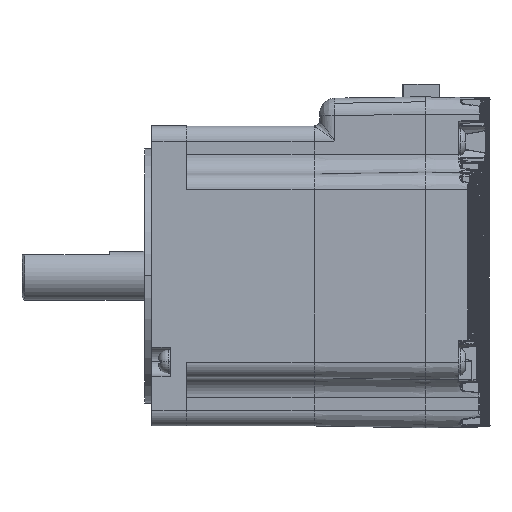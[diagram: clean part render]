
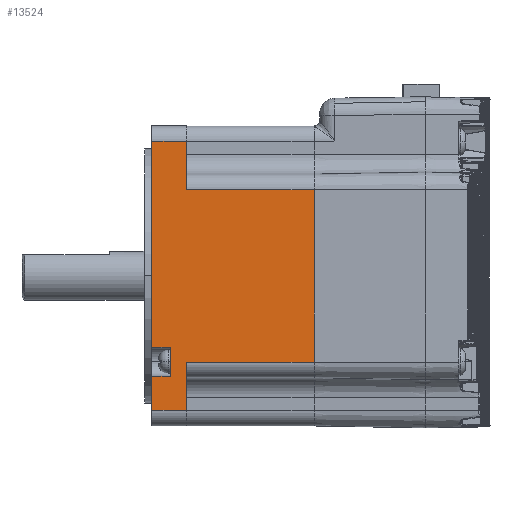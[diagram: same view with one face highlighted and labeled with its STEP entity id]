
A CAD part, left-side view. The second image highlights one B-rep face of the part: STEP entity #13524.
In plain terms, the highlighted planar face has unit normal (-1, 0, 0).
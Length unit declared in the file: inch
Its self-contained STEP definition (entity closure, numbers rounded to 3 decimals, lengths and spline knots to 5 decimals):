
#8327=EDGE_CURVE('',#18670,#19150,#26252,.T.);
#8506=VERTEX_POINT('',#26455);
#9121=EDGE_CURVE('',#26069,#21826,#27125,.T.);
#10547=EDGE_CURVE('',#17102,#18670,#28684,.T.);
#10725=VERTEX_POINT('',#28876);
#11591=VERTEX_POINT('',#29824);
#12037=EDGE_CURVE('',#8506,#11591,#30315,.T.);
#12851=VERTEX_POINT('',#31204);
#13366=EDGE_CURVE('',#12851,#17102,#31766,.T.);
#13524=ADVANCED_FACE('New 3D Block[1]',(#31939),#31940,.T.);
#14609=EDGE_CURVE('',#10725,#14861,#33121,.T.);
#14861=VERTEX_POINT('',#33395);
#15766=EDGE_CURVE('',#12851,#10725,#34394,.T.);
#17102=VERTEX_POINT('',#35858);
#18670=VERTEX_POINT('',#37580);
#19150=VERTEX_POINT('',#38102);
#19603=EDGE_CURVE('',#14861,#22801,#38603,.T.);
#21826=VERTEX_POINT('',#41056);
#22801=VERTEX_POINT('',#42129);
#23315=EDGE_CURVE('',#11591,#21826,#42705,.T.);
#23699=EDGE_CURVE('',#19150,#23827,#43126,.T.);
#23827=VERTEX_POINT('',#43274);
#24104=EDGE_CURVE('',#23827,#26069,#43572,.T.);
#24195=EDGE_CURVE('',#22801,#8506,#43674,.T.);
#26069=VERTEX_POINT('',#45728);
#26252=LINE('',#46184,#46185);
#26455=CARTESIAN_POINT('',(-7.04536,1.435,4.08748));
#27125=LINE('',#49397,#49398);
#28684=LINE('',#54757,#54758);
#28876=CARTESIAN_POINT('',(-7.04536,1.435,6.02948));
#29824=CARTESIAN_POINT('',(-7.04536,1.435,3.54348));
#30315=LINE('',#60610,#60611);
#31204=CARTESIAN_POINT('',(-7.04536,1.435,6.57348));
#31766=LINE('',#64767,#64768);
#31939=FACE_OUTER_BOUND('',#65430,.T.);
#31940=PLANE('',#65431);
#33121=LINE('',#70082,#70083);
#33395=CARTESIAN_POINT('',(-7.04536,0.,6.02948));
#34394=LINE('',#75549,#75550);
#35858=CARTESIAN_POINT('',(-7.04536,1.829,6.57348));
#37580=CARTESIAN_POINT('',(-7.04536,1.829,4.25749));
#38102=CARTESIAN_POINT('',(-7.04536,1.619,4.25749));
#38603=LINE('',#90309,#90310);
#41056=CARTESIAN_POINT('',(-7.04536,1.829,3.54348));
#42129=CARTESIAN_POINT('',(-7.04536,0.,4.08748));
#42705=LINE('',#104693,#104694);
#43126=LINE('',#106646,#106647);
#43274=CARTESIAN_POINT('',(-7.04536,1.619,3.92749));
#43572=LINE('',#107915,#107916);
#43674=LINE('',#108285,#108286);
#45728=CARTESIAN_POINT('',(-7.04536,1.829,3.92749));
#46184=CARTESIAN_POINT('',(-7.04536,1.829,4.25749));
#46185=VECTOR('',#115589,39.37008);
#49397=CARTESIAN_POINT('',(-7.04536,1.829,3.54348));
#49398=VECTOR('',#116359,39.37008);
#54757=CARTESIAN_POINT('',(-7.04536,1.829,3.54348));
#54758=VECTOR('',#117749,39.37008);
#60610=CARTESIAN_POINT('',(-7.04536,1.435,3.54348));
#60611=VECTOR('',#119376,39.37008);
#64767=CARTESIAN_POINT('',(-7.04536,1.429,6.57348));
#64768=VECTOR('',#120623,39.37008);
#65430=EDGE_LOOP('',(#120771,#120772,#120773,#120774,#120775,#120776,#120777,#120778,#120779,#120780,#120781,#120782));
#65431=AXIS2_PLACEMENT_3D('',#120783,#120784,#120785);
#70082=CARTESIAN_POINT('',(-7.04536,1.73,6.02948));
#70083=VECTOR('',#121830,39.37008);
#75549=CARTESIAN_POINT('',(-7.04536,1.435,3.54348));
#75550=VECTOR('',#123109,39.37008);
#90309=CARTESIAN_POINT('',(-7.04536,0.,4.08748));
#90310=VECTOR('',#126951,39.37008);
#104693=CARTESIAN_POINT('',(-7.04536,1.429,3.54348));
#104694=VECTOR('',#130895,39.37008);
#106646=CARTESIAN_POINT('',(-7.04536,1.619,4.08999));
#106647=VECTOR('',#131267,39.37008);
#107915=CARTESIAN_POINT('',(-7.04536,1.829,3.92749));
#107916=VECTOR('',#131692,39.37008);
#108285=CARTESIAN_POINT('',(-7.04536,0.,4.08748));
#108286=VECTOR('',#131791,39.37008);
#115589=DIRECTION('',(0.0,-1.0,0.0));
#116359=DIRECTION('',(0.0,0.0,-1.0));
#117749=DIRECTION('',(0.0,0.0,-1.0));
#119376=DIRECTION('',(0.0,0.0,-1.0));
#120623=DIRECTION('',(0.0,1.0,0.0));
#120771=ORIENTED_EDGE('',*,*,#24195,.F.);
#120772=ORIENTED_EDGE('',*,*,#19603,.F.);
#120773=ORIENTED_EDGE('',*,*,#14609,.F.);
#120774=ORIENTED_EDGE('',*,*,#15766,.F.);
#120775=ORIENTED_EDGE('',*,*,#13366,.T.);
#120776=ORIENTED_EDGE('',*,*,#10547,.T.);
#120777=ORIENTED_EDGE('',*,*,#8327,.T.);
#120778=ORIENTED_EDGE('',*,*,#23699,.T.);
#120779=ORIENTED_EDGE('',*,*,#24104,.T.);
#120780=ORIENTED_EDGE('',*,*,#9121,.T.);
#120781=ORIENTED_EDGE('',*,*,#23315,.F.);
#120782=ORIENTED_EDGE('',*,*,#12037,.F.);
#120783=CARTESIAN_POINT('',(-7.04536,0.,6.02948));
#120784=DIRECTION('',(-1.0,0.0,0.0));
#120785=DIRECTION('',(0.0,0.0,1.0));
#121830=DIRECTION('',(0.0,-1.0,0.0));
#123109=DIRECTION('',(0.0,0.0,-1.0));
#126951=DIRECTION('',(0.0,0.0,-1.0));
#130895=DIRECTION('',(0.0,1.0,0.0));
#131267=DIRECTION('',(0.0,0.,-1.0));
#131692=DIRECTION('',(0.0,1.0,0.0));
#131791=DIRECTION('',(0.0,1.0,0.0));
